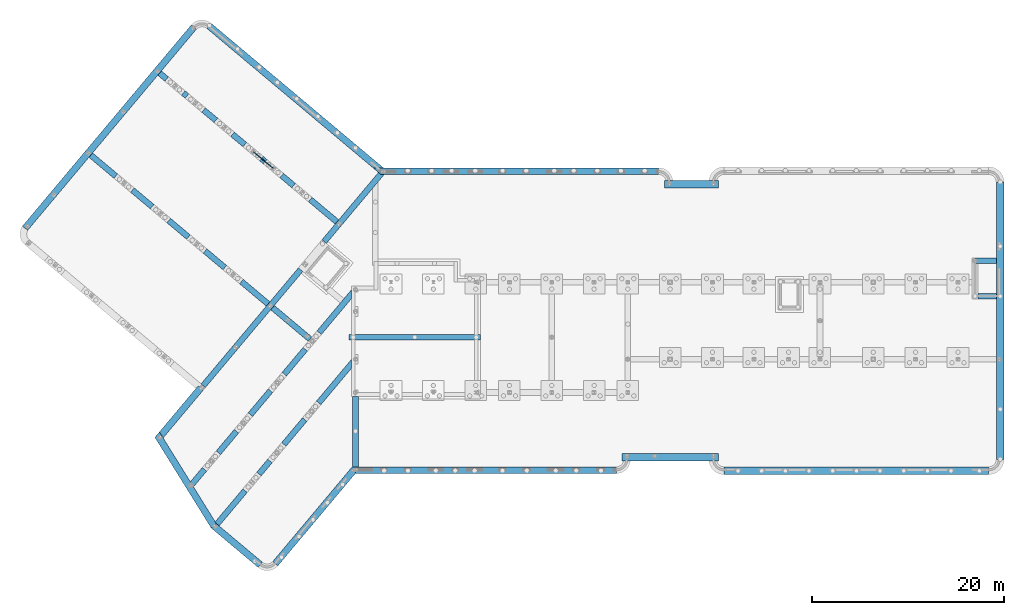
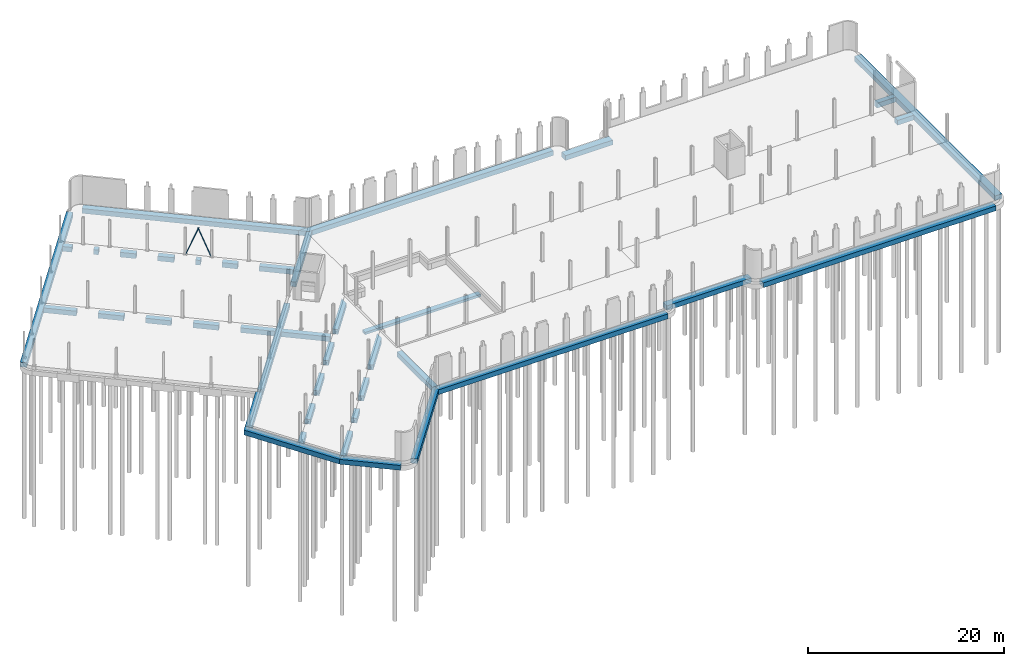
# One storey, part 18 of 26: 24 beams.
"""IFC2X3 building model written with IfcOpenShell, lengths in millimetres."""

from ifc_helpers import new_model, entity, si_unit, converted_unit, derived_unit, direction, frame, frame_2d, origin, origin_2d_with_axis, place, context, subcontext, project, spatial, polyline, circle_curve, parameter, trimmed, segment, composite_curve, rectangle, outline, extrude, clip, halfspace, bounded_halfspace, source, transform, mapped, material, type_object, type_shapes, element, save


model = new_model("IFC2X3")

# Units and contexts
model_context = context("Model", 3, precision=0.01, world=origin(), true_north=direction((6.123031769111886e-17, 1.0)))
body_context = subcontext(model_context, "Body", "Model", "MODEL_VIEW")
ifc_project = project(units=[si_unit("LENGTHUNIT", "METRE", prefix="MILLI"), si_unit("AREAUNIT", "SQUARE_METRE"), si_unit("VOLUMEUNIT", "CUBIC_METRE"), derived_unit("MASSDENSITYUNIT", [(si_unit("MASSUNIT", "GRAM", prefix="KILO"), 1), (si_unit("LENGTHUNIT", "METRE"), -3)]), si_unit("MASSUNIT", "GRAM", prefix="KILO"), converted_unit("PLANEANGLEUNIT", "DEGREE", entity("IfcPlaneAngleMeasure", 0.017453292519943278), si_unit("PLANEANGLEUNIT", "RADIAN"), dimensions=[0, 0, 0, 0, 0, 0, 0])], contexts=[model_context])

# Site, building, storey
site_placement = place(None, origin())
site = spatial("IfcSite", under=ifc_project, at=site_placement, Name="Default", CompositionType="ELEMENT")
building_placement = place(site_placement, origin())
building = spatial("IfcBuilding", under=site, at=building_placement, Name="AT constructie", CompositionType="ELEMENT")
storey_placement = place(building_placement, origin())
storey = spatial("IfcBuildingStorey", under=building, at=storey_placement, Name="00 begane grond", CompositionType="ELEMENT", Elevation=-1.0828671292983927e-12)

# Beams
ifc_material_1 = material(Name="h2_staal_S355")
beam_type_1 = type_object("IfcBeamType", Name="balk_gen_K100x50x4", PredefinedType="NOTDEFINED")
beam_1_placement = place(storey_placement, frame((31575.10835724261, 43964.21516234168, 3433.0), z_axis=(0.9601407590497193, 0.06828021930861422, -0.2710489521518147), x_axis=(-0.279516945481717, 0.23454256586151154, -0.9310532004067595)))
element("IfcBeam", 1, at=beam_1_placement, inside=storey, type_object=beam_type_1, material=ifc_material_1, Name="NLRS_28_SF_LIB_balk koker ongelijk_gen_AT:balk_gen_K100x50x4", ObjectType="NLRS_28_SF_LIB_balk koker ongelijk_gen_AT:balk_gen_K100x50x4", context=body_context, shape_type="SweptSolid", body=[
    extrude(outline(composite_curve([segment(trimmed(circle_curve(frame_2d((17.0, 42.0), x_axis=(1.0, 0.0)), 8.0), [parameter(359.99999999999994)], [parameter(89.99999999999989)], True, "PARAMETER"), True, "CONTINUOUS"), segment(polyline([(17.0, 50.0), (-17.0, 50.0)]), True, "CONTINUOUS"), segment(trimmed(circle_curve(frame_2d((-17.0, 42.0), x_axis=(1.0, 0.0)), 8.0), [parameter(90.00000000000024)], [parameter(180.00000000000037)], True, "PARAMETER"), True, "CONTINUOUS"), segment(polyline([(-25.0, 42.0), (-25.0, -42.0)]), True, "CONTINUOUS"), segment(trimmed(circle_curve(frame_2d((-17.0, -42.0), x_axis=(1.0, 0.0)), 8.0), [parameter(180.0)], [parameter(269.9999999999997)], True, "PARAMETER"), True, "CONTINUOUS"), segment(polyline([(-17.0, -50.0), (17.0, -50.0)]), True, "CONTINUOUS"), segment(trimmed(circle_curve(frame_2d((17.0, -42.0), x_axis=(1.0, 0.0)), 8.0), [parameter(270.00000000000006)], [parameter(2.544443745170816e-13)], True, "PARAMETER"), True, "CONTINUOUS"), segment(polyline([(25.0, -42.0), (25.0, 42.0)]), True, "CONTINUOUS")], self_intersect=False), holes=[composite_curve([segment(polyline([(-17.0, 46.0), (17.0, 46.0)]), True, "CONTINUOUS"), segment(trimmed(circle_curve(frame_2d((17.0, 42.0), x_axis=(1.0, 0.0)), 4.0), [parameter(0.0)], [parameter(90.00000000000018)], True, "PARAMETER"), False, "CONTINUOUS"), segment(polyline([(21.0, 42.0), (21.0, -42.0)]), True, "CONTINUOUS"), segment(trimmed(circle_curve(frame_2d((17.0, -42.0), x_axis=(1.0, 0.0)), 4.0), [parameter(269.9999999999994)], [parameter(359.9999999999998)], True, "PARAMETER"), False, "CONTINUOUS"), segment(polyline([(17.0, -46.0), (-17.0, -46.0)]), True, "CONTINUOUS"), segment(trimmed(circle_curve(frame_2d((-17.0, -42.0), x_axis=(1.0, 0.0)), 4.0), [parameter(180.00000000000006)], [parameter(269.9999999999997)], True, "PARAMETER"), False, "CONTINUOUS"), segment(polyline([(-21.0, -42.0), (-21.0, 42.0)]), True, "CONTINUOUS"), segment(trimmed(circle_curve(frame_2d((-17.0, 42.0), x_axis=(1.0, 0.0)), 4.0), [parameter(89.99999999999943)], [parameter(179.99999999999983)], True, "PARAMETER"), False, "CONTINUOUS")], self_intersect=False)]), frame((0.0, -33.473613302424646, 37.141852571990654), z_axis=(1.0, 0.0, 0.0), x_axis=(0.0, -0.7428370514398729, -0.669472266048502)), (0.0, 0.0, 1.0), 3769.4762135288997),
])
beam_2_placement = place(storey_placement, frame((31575.108357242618, 43964.215162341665, 3433.0), z_axis=(0.9593624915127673, 0.06964222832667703, 0.27344756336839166), x_axis=(0.2821765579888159, -0.2367742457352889, -0.9296850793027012)))
element("IfcBeam", 2, at=beam_2_placement, inside=storey, type_object=beam_type_1, material=ifc_material_1, Name="NLRS_28_SF_LIB_balk koker ongelijk_gen_AT:balk_gen_K100x50x4", ObjectType="NLRS_28_SF_LIB_balk koker ongelijk_gen_AT:balk_gen_K100x50x4", context=body_context, shape_type="SweptSolid", body=[
    extrude(outline(composite_curve([segment(polyline([(-42.0, -25.0), (42.0, -25.0)]), True, "CONTINUOUS"), segment(trimmed(circle_curve(frame_2d((42.0, -17.0), x_axis=(0.0, -1.0)), 8.0), [parameter(359.9999999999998)], [parameter(89.99999999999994)], True, "PARAMETER"), True, "CONTINUOUS"), segment(polyline([(50.0, -17.0), (50.0, 17.0)]), True, "CONTINUOUS"), segment(trimmed(circle_curve(frame_2d((42.0, 17.0), x_axis=(0.0, -1.0)), 8.0), [parameter(90.0000000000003)], [parameter(180.0)], True, "PARAMETER"), True, "CONTINUOUS"), segment(polyline([(42.0, 25.0), (-42.0, 25.0)]), True, "CONTINUOUS"), segment(trimmed(circle_curve(frame_2d((-42.0, 17.0), x_axis=(0.0, -1.0)), 8.0), [parameter(179.99999999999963)], [parameter(269.9999999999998)], True, "PARAMETER"), True, "CONTINUOUS"), segment(polyline([(-50.0, 17.0), (-50.0, -17.0)]), True, "CONTINUOUS"), segment(trimmed(circle_curve(frame_2d((-42.0, -17.0), x_axis=(0.0, -1.0)), 8.0), [parameter(270.0000000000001)], [parameter(5.088887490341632e-14)], True, "PARAMETER"), True, "CONTINUOUS")], self_intersect=False), holes=[composite_curve([segment(trimmed(circle_curve(frame_2d((-42.0, 17.0), x_axis=(0.0, -1.0)), 4.0), [parameter(180.00000000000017)], [parameter(270.00000000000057)], True, "PARAMETER"), False, "CONTINUOUS"), segment(polyline([(-42.0, 21.0), (42.0, 21.0)]), True, "CONTINUOUS"), segment(trimmed(circle_curve(frame_2d((42.0, 17.0), x_axis=(0.0, -1.0)), 4.0), [parameter(90.0000000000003)], [parameter(179.99999999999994)], True, "PARAMETER"), False, "CONTINUOUS"), segment(polyline([(46.0, 17.0), (46.0, -17.0)]), True, "CONTINUOUS"), segment(trimmed(circle_curve(frame_2d((42.0, -17.0), x_axis=(0.0, -1.0)), 4.0), [parameter(2.544443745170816e-13)], [parameter(90.00000000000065)], True, "PARAMETER"), False, "CONTINUOUS"), segment(polyline([(42.0, -21.0), (-42.0, -21.0)]), True, "CONTINUOUS"), segment(trimmed(circle_curve(frame_2d((-42.0, -17.0), x_axis=(0.0, -1.0)), 4.0), [parameter(269.99999999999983)], [parameter(0.0)], True, "PARAMETER"), False, "CONTINUOUS"), segment(polyline([(-46.0, -17.0), (-46.0, 17.0)]), True, "CONTINUOUS")], self_intersect=False)]), frame((0.0, 33.500768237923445, -37.1173615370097), z_axis=(1.0, 0.0, 0.0), x_axis=(0.0, 0.6700153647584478, -0.7423472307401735)), (0.0, 0.0, 1.0), 3746.4299229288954),
])
ifc_material_2 = material(Name="f2_beton ihwg_gen")
beam_type_2 = type_object("IfcBeamType", Name="fund vierkant_gen_800x600", PredefinedType="NOTDEFINED")
beam_3_placement = place(storey_placement, frame((108532.87463111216, 41671.043508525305, 0.0), z_axis=(0.0, 0.0, 1.0), x_axis=(0.0, -1.0, 0.0)))
element("IfcBeam", 3, at=beam_3_placement, inside=storey, type_object=beam_type_2, material=ifc_material_2, Name="NLRS_16_SF_LIB_balk fundering beton_gen_AT:fund vierkant_gen_800x600", ObjectType="NLRS_16_SF_LIB_balk fundering beton_gen_AT:fund vierkant_gen_800x600", context=body_context, shape_type="SweptSolid", body=[
    extrude(rectangle(XDim=600.0000000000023, YDim=799.9999999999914, at=frame_2d((-5.684341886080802e-14, 0.0), x_axis=(1.0, 0.0))), frame((0.0, -400.0, -750.0), z_axis=(1.0, 0.0, 0.0), x_axis=(0.0, 0.0, -1.0)), (0.0, 0.0, 1.0), 28799.99999999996),
])
beam_4_placement = place(storey_placement, frame((79446.8746311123, 11285.043508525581, 0.0)))
element("IfcBeam", 4, at=beam_4_placement, inside=storey, type_object=beam_type_2, material=ifc_material_2, Name="NLRS_16_SF_LIB_balk fundering beton_gen_AT:fund vierkant_gen_800x600", ObjectType="NLRS_16_SF_LIB_balk fundering beton_gen_AT:fund vierkant_gen_800x600", context=body_context, shape_type="SweptSolid", body=[
    extrude(rectangle(XDim=600.0000000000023, YDim=799.9999999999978, at=frame_2d((-5.684341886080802e-14, 1.0800249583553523e-12), x_axis=(1.0, 0.0))), frame((0.0, 400.0, -750.0), z_axis=(1.0, 0.0, 0.0), x_axis=(0.0, 0.0, -1.0)), (0.0, 0.0, 1.0), 27499.99999999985),
])
beam_5_placement = place(storey_placement, frame((73245.87462931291, 41857.04350852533, 0.0)))
element("IfcBeam", 5, at=beam_5_placement, inside=storey, type_object=beam_type_2, material=ifc_material_2, Name="NLRS_16_SF_LIB_balk fundering beton_gen_AT:fund vierkant_gen_800x600", ObjectType="NLRS_16_SF_LIB_balk fundering beton_gen_AT:fund vierkant_gen_800x600", context=body_context, shape_type="SweptSolid", body=[
    extrude(rectangle(XDim=600.0000000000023, YDim=800.0, at=frame_2d((-5.684341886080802e-14, -4.348521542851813e-12), x_axis=(1.0, 0.0))), frame((0.0, -400.0, -750.0), z_axis=(1.0, 0.0, 0.0), x_axis=(0.0, 0.0, -1.0)), (0.0, 0.0, 1.0), 5603.000001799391),
])
beam_6_placement = place(storey_placement, frame((78848.37463291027, 12685.043511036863, 0.0), z_axis=(0.0, 0.0, 1.0), x_axis=(-1.0, 0.0, 0.0)))
element("IfcBeam", 6, at=beam_6_placement, inside=storey, type_object=beam_type_2, material=ifc_material_2, Name="NLRS_16_SF_LIB_balk fundering beton_gen_AT:fund vierkant_gen_800x600", ObjectType="NLRS_16_SF_LIB_balk fundering beton_gen_AT:fund vierkant_gen_800x600", context=body_context, shape_type="SweptSolid", body=[
    extrude(rectangle(XDim=600.0000000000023, YDim=799.9999999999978, at=frame_2d((-5.684341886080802e-14, -1.0800249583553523e-12), x_axis=(1.0, 0.0))), frame((0.0, -400.0, -750.0), z_axis=(1.0, 0.0, 0.0), x_axis=(0.0, 0.0, -1.0)), (0.0, 0.0, 1.0), 10003.000006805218),
])
beam_type_3 = type_object("IfcBeamType", Name="fund vierkant_gen_700x600", PredefinedType="NOTDEFINED")
beam_7_placement = place(storey_placement, frame((44050.97011811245, 43157.043508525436, 0.0)))
element("IfcBeam", 7, at=beam_7_placement, inside=storey, type_object=beam_type_3, material=ifc_material_2, Name="NLRS_16_SF_LIB_balk fundering beton_gen_AT:fund vierkant_gen_700x600", ObjectType="NLRS_16_SF_LIB_balk fundering beton_gen_AT:fund vierkant_gen_700x600", context=body_context, shape_type="SweptSolid", body=[
    clip(extrude(rectangle(XDim=600.0000000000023, YDim=699.9999999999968, at=frame_2d((-5.684341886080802e-14, 0.0), x_axis=(1.0, 0.0))), frame((-1089.0066788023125, -350.0, -750.0), z_axis=(1.0, 0.0, 0.0), x_axis=(0.0, 0.0, -1.0)), (0.0, 0.0, 1.0), 29684.911191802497), halfspace(frame((-1102.1936685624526, 11.06519824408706, -1050.0), z_axis=(-0.6427876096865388, -0.7660444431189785, 0.0), x_axis=(0.7660444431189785, -0.6427876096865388, 0.0)), False)),
])
beam_8_placement = place(storey_placement, frame((26167.153197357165, 58163.34769077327, 0.0), z_axis=(0.0, 0.0, 1.0), x_axis=(0.7660444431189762, -0.6427876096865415, 0.0)))
element("IfcBeam", 8, at=beam_8_placement, inside=storey, type_object=beam_type_3, material=ifc_material_2, Name="NLRS_16_SF_LIB_balk fundering beton_gen_AT:fund vierkant_gen_700x600", ObjectType="NLRS_16_SF_LIB_balk fundering beton_gen_AT:fund vierkant_gen_700x600", context=body_context, shape_type="SweptSolid", body=[
    clip(extrude(rectangle(XDim=600.0000000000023, YDim=699.9999999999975, at=frame_2d((-5.684341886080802e-14, -3.296918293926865e-12), x_axis=(1.0, 0.0))), frame((0.0, -350.0, -750.0), z_axis=(1.0, 0.0, 0.0), x_axis=(0.0, 0.0, -1.0)), (0.0, 0.0, 1.0), 23345.664969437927), halfspace(frame((23483.377419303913, 115.55446589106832, -450.0), z_axis=(0.6427876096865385, -0.7660444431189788, 0.0), x_axis=(0.7660444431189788, 0.6427876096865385, 0.0)), False)),
])
beam_9_placement = place(storey_placement, frame((6530.268821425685, 37073.19845883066, 0.0), z_axis=(0.0, 0.0, 1.0), x_axis=(0.6427876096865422, 0.7660444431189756, 0.0)))
element("IfcBeam", 9, at=beam_9_placement, inside=storey, type_object=beam_type_3, material=ifc_material_2, Name="NLRS_16_SF_LIB_balk fundering beton_gen_AT:fund vierkant_gen_700x600", ObjectType="NLRS_16_SF_LIB_balk fundering beton_gen_AT:fund vierkant_gen_700x600", context=body_context, shape_type="SweptSolid", body=[
    clip(clip(extrude(rectangle(XDim=600.0000000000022, YDim=700.0000000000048, at=frame_2d((0.0, -3.979039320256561e-13), x_axis=(1.0, 0.0))), frame((0.0, -350.0, -750.0), z_axis=(1.0, 0.0, 0.0), x_axis=(0.0, 0.0, -1.0)), (0.0, 0.0, 1.0), 27336.82976236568), halfspace(frame((52.71757364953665, -700.0, 0.0), z_axis=(-0.9971761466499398, -0.07509815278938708, 0.0), x_axis=(0.07509815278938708, -0.9971761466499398, 0.0)), False)), halfspace(frame((27324.692694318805, -700.0, 0.0), z_axis=(0.9998497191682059, -0.01733606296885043, 0.0), x_axis=(-0.01733606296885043, -0.9998497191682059, 0.0)), False)),
])
beam_10_placement = place(storey_placement, frame((68246.87463111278, 11385.0435085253, 0.0), z_axis=(0.0, 0.0, 1.0), x_axis=(-1.0, 0.0, 0.0)))
element("IfcBeam", 10, at=beam_10_placement, inside=storey, type_object=beam_type_3, material=ifc_material_2, Name="NLRS_16_SF_LIB_balk fundering beton_gen_AT:fund vierkant_gen_700x600", ObjectType="NLRS_16_SF_LIB_balk fundering beton_gen_AT:fund vierkant_gen_700x600", context=body_context, shape_type="SweptSolid", body=[
    extrude(rectangle(XDim=600.0000000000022, YDim=699.9999999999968, at=frame_2d((0.0, 2.1600499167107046e-12), x_axis=(1.0, 0.0))), frame((0.0, -350.0, -750.0), z_axis=(1.0, 0.0, 0.0), x_axis=(0.0, 0.0, -1.0)), (0.0, 0.0, 1.0), 27100.000000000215),
])
beam_11_placement = place(storey_placement, frame((41146.874631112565, 11397.3123166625, 0.0), z_axis=(0.0, 0.0, 1.0), x_axis=(-0.6427876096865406, -0.7660444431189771, 0.0)))
element("IfcBeam", 11, at=beam_11_placement, inside=storey, type_object=beam_type_3, material=ifc_material_2, Name="NLRS_16_SF_LIB_balk fundering beton_gen_AT:fund vierkant_gen_700x600", ObjectType="NLRS_16_SF_LIB_balk fundering beton_gen_AT:fund vierkant_gen_700x600", context=body_context, shape_type="SweptSolid", body=[
    clip(clip(clip(clip(extrude(rectangle(XDim=600.0000000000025, YDim=700.0000000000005, at=frame_2d((-2.842170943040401e-14, 0.0), x_axis=(1.0, 0.0))), frame((-526.8326578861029, -350.0, -750.0), z_axis=(1.0, 0.0, 0.0), x_axis=(0.0, 0.0, -1.0)), (0.0, 0.0, 1.0), 13061.242637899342), halfspace(frame((12522.272911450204, -700.0, 0.0), z_axis=(0.9998497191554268, -0.017336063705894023, 0.0), x_axis=(0.017336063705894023, 0.9998497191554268, 0.0)), False)), halfspace(frame((-258.7171027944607, -217.08942553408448, -750.0), z_axis=(-0.6427876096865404, 0.7660444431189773, 0.0), x_axis=(0.0, 0.0, 1.0)), False)), bounded_halfspace(frame((-526.8326578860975, -442.0650889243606, -750.0), z_axis=(-0.7660444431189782, -0.6427876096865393, 0.0), x_axis=(0.0, 0.0, 1.0)), False, frame((-526.8326578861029, -350.0, -750.0), z_axis=(1.0, 0.0, 0.0), x_axis=(0.0, 0.0, -1.0)), polyline([(300.0, -321.87842186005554), (-300.0, -321.87842186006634), (-300.0, -92.06508892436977), (300.0, -92.06508892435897), (300.0, -321.87842186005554)]))), bounded_halfspace(frame((-333.99637498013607, -671.8784218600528, -450.0), z_axis=(-0.6427876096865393, 0.7660444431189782, 0.0), x_axis=(-0.7660444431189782, -0.6427876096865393, 0.0)), False, frame((-526.8326578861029, -350.0, -750.0), z_axis=(1.0, 0.0, 0.0), x_axis=(0.0, 0.0, -1.0)), polyline([(-300.0, -321.87842186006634), (300.0, -321.8784218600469), (300.0, -350.0), (-300.0, -350.0), (-300.0, -321.87842186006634)]))),
])
beam_12_placement = place(storey_placement, frame((31024.846596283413, 1646.4373243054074, 0.0), z_axis=(0.0, 0.0, 1.0), x_axis=(-0.7660444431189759, 0.6427876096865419, 0.0)))
element("IfcBeam", 12, at=beam_12_placement, inside=storey, type_object=beam_type_3, material=ifc_material_2, Name="NLRS_16_SF_LIB_balk fundering beton_gen_AT:fund vierkant_gen_700x600", ObjectType="NLRS_16_SF_LIB_balk fundering beton_gen_AT:fund vierkant_gen_700x600", context=body_context, shape_type="SweptSolid", body=[
    clip(extrude(rectangle(XDim=600.0000000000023, YDim=699.9999999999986, at=frame_2d((-2.842170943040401e-14, 2.3305801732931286e-12), x_axis=(1.0, 0.0))), frame((0.0, -350.0, -750.0), z_axis=(1.0, 0.0, 0.0), x_axis=(0.0, 0.0, -1.0)), (0.0, 0.0, 1.0), 6345.480674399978), halfspace(frame((6233.7196169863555, -700.0, 0.0), z_axis=(0.9874931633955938, -0.1576618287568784, 0.0), x_axis=(-0.1576618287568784, -0.9874931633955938, 0.0)), False)),
])
beam_13_placement = place(storey_placement, frame((26163.926386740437, 5725.233679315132, 0.0), z_axis=(0.0, 0.0, 1.0), x_axis=(-0.5278097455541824, 0.849362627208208, 0.0)))
element("IfcBeam", 13, at=beam_13_placement, inside=storey, type_object=beam_type_3, material=ifc_material_2, Name="NLRS_16_SF_LIB_balk fundering beton_gen_AT:fund vierkant_gen_700x600", ObjectType="NLRS_16_SF_LIB_balk fundering beton_gen_AT:fund vierkant_gen_700x600", context=body_context, shape_type="SweptSolid", body=[
    clip(clip(extrude(rectangle(XDim=600.0000000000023, YDim=699.9999999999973, at=frame_2d((-5.684341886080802e-14, 2.5579538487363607e-13), x_axis=(1.0, 0.0))), frame((0.0, -350.0, -750.0), z_axis=(1.0, 0.0, 0.0), x_axis=(0.0, 0.0, -1.0)), (0.0, 0.0, 1.0), 11321.127856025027), halfspace(frame((11060.918822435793, 94.11942102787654, -450.0), z_axis=(0.9502854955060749, 0.3113799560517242, 0.0), x_axis=(0.3113799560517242, -0.9502854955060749, 0.0)), False)), halfspace(frame((111.76105741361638, -700.0, 0.0), z_axis=(-0.9874931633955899, -0.15766182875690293, 0.0), x_axis=(0.15766182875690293, -0.9874931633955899, 0.0)), False)),
])
beam_14_placement = place(storey_placement, frame((20309.587931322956, 15146.159179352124, 0.0), z_axis=(0.0, 0.0, 1.0), x_axis=(0.6427876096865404, 0.7660444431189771, 0.0)))
element("IfcBeam", 14, at=beam_14_placement, inside=storey, type_object=beam_type_3, material=ifc_material_2, Name="NLRS_16_SF_LIB_balk fundering beton_gen_AT:fund vierkant_gen_700x600", ObjectType="NLRS_16_SF_LIB_balk fundering beton_gen_AT:fund vierkant_gen_700x600", context=body_context, shape_type="SweptSolid", body=[
    clip(extrude(rectangle(XDim=600.0000000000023, YDim=700.0000000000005, at=frame_2d((-5.684341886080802e-14, 0.0), x_axis=(1.0, 0.0))), frame((507.2518027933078, -350.0, -750.0), z_axis=(1.0, 0.0, 0.0), x_axis=(0.0, 0.0, -1.0)), (0.0, 0.0, 1.0), 6488.9967909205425), halfspace(frame((-2716.7268000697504, -10539.105069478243, -1050.0), z_axis=(-0.9502854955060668, 0.3113799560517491, 0.0), x_axis=(0.3113799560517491, 0.9502854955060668, 0.0)), False)),
])
beam_type_4 = type_object("IfcBeamType", Name="fund vierkant_gen_600x600", PredefinedType="NOTDEFINED")
beam_15_placement = place(storey_placement, frame((25338.083282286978, 20516.59704846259, 0.0), z_axis=(0.0, 0.0, 1.0), x_axis=(0.6427876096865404, 0.7660444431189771, 0.0)))
element("IfcBeam", 15, at=beam_15_placement, inside=storey, type_object=beam_type_4, material=ifc_material_2, Name="NLRS_16_SF_LIB_balk fundering beton_gen_AT:fund vierkant_gen_600x600", ObjectType="NLRS_16_SF_LIB_balk fundering beton_gen_AT:fund vierkant_gen_600x600", context=body_context, shape_type="SweptSolid", body=[
    extrude(rectangle(XDim=600.0000000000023, YDim=600.0000000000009, at=frame_2d((-5.684341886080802e-14, 1.6484591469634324e-12), x_axis=(1.0, 0.0))), frame((0.0, 0.0, -750.0), z_axis=(1.0, 0.0, 0.0), x_axis=(0.0, 0.0, -1.0)), (0.0, 0.0, 1.0), 15737.000009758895),
])
beam_16_placement = place(storey_placement, frame((41146.87463111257, 12085.043508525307, 0.0), z_axis=(0.0, 0.0, 1.0), x_axis=(0.0, 1.0, 0.0)))
element("IfcBeam", 16, at=beam_16_placement, inside=storey, type_object=beam_type_4, material=ifc_material_2, Name="NLRS_16_SF_LIB_balk fundering beton_gen_AT:fund vierkant_gen_600x600", ObjectType="NLRS_16_SF_LIB_balk fundering beton_gen_AT:fund vierkant_gen_600x600", context=body_context, shape_type="SweptSolid", body=[
    extrude(rectangle(XDim=600.0000000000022, YDim=599.9999999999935, at=origin_2d_with_axis()), frame((0.0, 0.0, -750.0), z_axis=(1.0, 0.0, 0.0), x_axis=(0.0, 0.0, -1.0)), (0.0, 0.0, 1.0), 7311.0000000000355),
])
beam_17_placement = place(storey_placement, frame((40471.874631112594, 25546.043508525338, 0.0)))
element("IfcBeam", 17, at=beam_17_placement, inside=storey, type_object=beam_type_4, material=ifc_material_2, Name="NLRS_16_SF_LIB_balk fundering beton_gen_AT:fund vierkant_gen_600x600", ObjectType="NLRS_16_SF_LIB_balk fundering beton_gen_AT:fund vierkant_gen_600x600", context=body_context, shape_type="SweptSolid", body=[
    extrude(rectangle(XDim=300.00000000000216, YDim=600.0000000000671, at=frame_2d((0.0, -5.4143356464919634e-11), x_axis=(1.0, 0.0))), frame((0.0, 0.0, -1604.0), z_axis=(1.0, 0.0, 0.0), x_axis=(0.0, 0.0, -1.0)), (0.0, 0.0, 1.0), 13674.99999999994),
])
beam_18_placement = place(storey_placement, frame((37902.652695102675, 35490.46778558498, 0.0), z_axis=(0.0, 0.0, 1.0), x_axis=(0.6427876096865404, 0.7660444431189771, 0.0)))
element("IfcBeam", 18, at=beam_18_placement, inside=storey, type_object=beam_type_4, material=ifc_material_2, Name="NLRS_16_SF_LIB_balk fundering beton_gen_AT:fund vierkant_gen_600x600", ObjectType="NLRS_16_SF_LIB_balk fundering beton_gen_AT:fund vierkant_gen_600x600", context=body_context, shape_type="SweptSolid", body=[
    clip(clip(extrude(rectangle(XDim=600.0000000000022, YDim=600.0000000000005, at=origin_2d_with_axis()), frame((0.0, 0.0, -750.0), z_axis=(1.0, 0.0, 0.0), x_axis=(0.0, 0.0, -1.0)), (0.0, 0.0, 1.0), 9340.299989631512), bounded_halfspace(frame((9404.32334594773, -369.5682896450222, -1050.0), z_axis=(0.7660444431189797, 0.6427876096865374, 0.0), x_axis=(0.6427876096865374, -0.7660444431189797, 0.0)), False, frame((0.0, 0.0, -750.0), z_axis=(1.0, 0.0, 0.0), x_axis=(0.0, 0.0, -1.0)), polyline([(300.0, -36.683676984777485), (-300.0, -36.683676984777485), (-300.0, -293.2682247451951), (300.0, -293.2682247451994), (300.0, -36.683676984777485)]))), bounded_halfspace(frame((9124.99999023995, 1069.5373943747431, -1050.0), z_axis=(1.0, 0.0, 0.0), x_axis=(0.0, -1.0, 0.0)), False, frame((0.0, 0.0, -750.0), z_axis=(1.0, 0.0, 0.0), x_axis=(0.0, 0.0, -1.0)), polyline([(-300.0, -36.683676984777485), (300.0, -36.68367698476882), (300.0, 300.0), (-300.0, 300.0), (-300.0, -36.683676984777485)]))),
])
beam_19_placement = place(storey_placement, frame((105525.87463489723, 33501.04350852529, 0.0)))
element("IfcBeam", 19, at=beam_19_placement, inside=storey, type_object=beam_type_4, material=ifc_material_2, Name="NLRS_16_SF_LIB_balk fundering beton_gen_AT:fund vierkant_gen_600x600", ObjectType="NLRS_16_SF_LIB_balk fundering beton_gen_AT:fund vierkant_gen_600x600", context=body_context, shape_type="SweptSolid", body=[
    extrude(rectangle(XDim=600.0000000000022, YDim=599.9999999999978, at=frame_2d((0.0, 2.1600499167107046e-12), x_axis=(1.0, 0.0))), frame((12.70000060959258, 0.0, -750.0), z_axis=(1.0, 0.0, 0.0), x_axis=(0.0, 0.0, -1.0)), (0.0, 0.0, 1.0), 2194.299995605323),
])
beam_20_placement = place(storey_placement, frame((105525.87463489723, 29814.0435085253, 0.0)))
element("IfcBeam", 20, at=beam_20_placement, inside=storey, type_object=beam_type_4, material=ifc_material_2, Name="NLRS_16_SF_LIB_balk fundering beton_gen_AT:fund vierkant_gen_600x600", ObjectType="NLRS_16_SF_LIB_balk fundering beton_gen_AT:fund vierkant_gen_600x600", context=body_context, shape_type="SweptSolid", body=[
    extrude(rectangle(XDim=600.0000000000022, YDim=599.9999999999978, at=frame_2d((0.0, 2.1600499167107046e-12), x_axis=(1.0, 0.0))), frame((300.0, 0.0, -750.0), z_axis=(1.0, 0.0, 0.0), x_axis=(0.0, 0.0, -1.0)), (0.0, 0.0, 1.0), 1906.9999962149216),
])
beam_type_5 = type_object("IfcBeamType", Name="fund vierkant_gen_600x600", PredefinedType="BEAM", material=ifc_material_2)
shared_shape_1 = source(origin(), body_context, "Body", "SweptSolid", [
    extrude(rectangle(XDim=600.0000000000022, YDim=599.9999999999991, at=frame_2d((0.0, 4.689582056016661e-12), x_axis=(1.0, 0.0))), frame((13650.147630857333, 44469.33293000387, -750.0), z_axis=(0.7660444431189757, -0.6427876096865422, 0.0), x_axis=(0.0, 0.0, -1.0)), (0.0, 0.0, 1.0), 3391.0000000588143),
    extrude(rectangle(XDim=600.0000000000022, YDim=599.999999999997, at=frame_2d((0.0, 3.296918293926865e-12), x_axis=(1.0, 0.0))), frame((29301.2016482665, 31336.539276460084, -750.0), z_axis=(0.7660444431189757, -0.6427876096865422, 0.0), x_axis=(0.0, 0.0, -1.0)), (0.0, 0.0, 1.0), 3618.999999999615),
    extrude(rectangle(XDim=600.0000000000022, YDim=599.9999999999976, at=origin_2d_with_axis()), frame((32533.143153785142, 28624.61835119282, -750.0), z_axis=(0.766044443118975, -0.6427876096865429, 0.0), x_axis=(0.0, 0.0, -1.0)), (0.0, 0.0, 1.0), 5085.999999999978),
    extrude(rectangle(XDim=600.0000000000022, YDim=599.9999999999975, at=frame_2d((0.0, -5.4001247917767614e-12), x_axis=(1.0, 0.0))), frame((17971.40433453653, 40843.368023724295, -750.0), z_axis=(0.7660444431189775, -0.64278760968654, 0.0), x_axis=(0.0, 0.0, -1.0)), (0.0, 0.0, 1.0), 2680.000000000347),
    extrude(rectangle(XDim=600.0000000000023, YDim=599.9999999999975, at=frame_2d((0.0, 6.110667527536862e-12), x_axis=(1.0, 0.0))), frame((21748.00343911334, 37674.42510796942, -750.0), z_axis=(0.7660444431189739, -0.6427876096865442, 0.0), x_axis=(0.0, 0.0, -1.0)), (0.0, 0.0, 1.0), 2680.000000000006),
    extrude(rectangle(XDim=600.0000000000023, YDim=599.999999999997, at=frame_2d((0.0, 1.6768808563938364e-12), x_axis=(1.0, 0.0))), frame((25524.6025436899, 34505.48219221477, -750.0), z_axis=(0.7660444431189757, -0.6427876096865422, 0.0), x_axis=(0.0, 0.0, -1.0)), (0.0, 0.0, 1.0), 2680.0000000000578),
])
type_shapes(beam_type_5, [shared_shape_1])
beam_21_placement = place(storey_placement, origin())
element("IfcBeam", 21, at=beam_21_placement, inside=storey, type_object=beam_type_5, material=ifc_material_2, Name="NLRS_16_SF_LIB_balk fundering beton_gen_AT:fund vierkant_gen_600x600", ObjectType="NLRS_16_SF_LIB_balk fundering beton_gen_AT:fund vierkant_gen_600x600", context=body_context, shape_type="MappedRepresentation", body=[
    mapped(shared_shape_1, transform((0.0, 0.0, 0.0), scale=1.0)),
])
beam_type_6 = type_object("IfcBeamType", Name="fund vierkant_gen_600x600", PredefinedType="BEAM", material=ifc_material_2)
shared_shape_2 = source(origin(), body_context, "Body", "SweptSolid", [
    extrude(rectangle(XDim=600.0000000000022, YDim=600.0000000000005, at=frame_2d((0.0, 3.296918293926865e-12), x_axis=(1.0, 0.0))), frame((20801.159788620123, 52991.5773597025, -750.0), z_axis=(0.7660444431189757, -0.6427876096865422, 0.0), x_axis=(0.0, 0.0, -1.0)), (0.0, 0.0, 1.0), 961.0000000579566),
    extrude(rectangle(XDim=600.0000000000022, YDim=599.9999999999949, at=frame_2d((0.0, 1.3926637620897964e-12), x_axis=(1.0, 0.0))), frame((23260.928495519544, 50927.5863449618, -750.0), z_axis=(0.7660444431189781, -0.6427876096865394, 0.0), x_axis=(0.0, 0.0, -1.0)), (0.0, 0.0, 1.0), 504.9999999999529),
    extrude(rectangle(XDim=600.0000000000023, YDim=599.9999999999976, at=origin_2d_with_axis()), frame((25371.380936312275, 49156.7064802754, -750.0), z_axis=(0.7660444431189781, -0.6427876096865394, 0.0), x_axis=(0.0, 0.0, -1.0)), (0.0, 0.0, 1.0), 1670.00000000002),
    extrude(rectangle(XDim=600.0000000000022, YDim=599.9999999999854, at=frame_2d((0.0, 4.718003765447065e-12), x_axis=(1.0, 0.0))), frame((28374.275153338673, 46636.97905030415, -750.0), z_axis=(0.7660444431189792, -0.6427876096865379, 0.0), x_axis=(0.0, 0.0, -1.0)), (0.0, 0.0, 1.0), 1679.9984253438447),
    extrude(rectangle(XDim=600.0000000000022, YDim=599.9999999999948, at=frame_2d((0.0, 4.718003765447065e-12), x_axis=(1.0, 0.0))), frame((31384.828608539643, 44110.82475640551, -750.0), z_axis=(0.7660444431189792, -0.6427876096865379, 0.0), x_axis=(0.0, 0.0, -1.0)), (0.0, 0.0, 1.0), 495.01902650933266),
    extrude(rectangle(XDim=600.0000000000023, YDim=599.9999999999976, at=origin_2d_with_axis()), frame((33487.635180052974, 42346.36053781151, -750.0), z_axis=(0.7660444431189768, -0.6427876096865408, 0.0), x_axis=(0.0, 0.0, -1.0)), (0.0, 0.0, 1.0), 1619.9825481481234),
    extrude(rectangle(XDim=600.0000000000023, YDim=599.9999999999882, at=frame_2d((0.0, -9.43600753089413e-12), x_axis=(1.0, 0.0))), frame((36452.21380602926, 39858.783706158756, -750.0), z_axis=(0.7660444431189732, -0.642787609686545, 0.0), x_axis=(0.0, 0.0, -1.0)), (0.0, 0.0, 1.0), 3618.999999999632),
])
type_shapes(beam_type_6, [shared_shape_2])
beam_22_placement = place(storey_placement, origin())
element("IfcBeam", 22, at=beam_22_placement, inside=storey, type_object=beam_type_6, material=ifc_material_2, Name="NLRS_16_SF_LIB_balk fundering beton_gen_AT:fund vierkant_gen_600x600", ObjectType="NLRS_16_SF_LIB_balk fundering beton_gen_AT:fund vierkant_gen_600x600", context=body_context, shape_type="MappedRepresentation", body=[
    mapped(shared_shape_2, transform((0.0, 0.0, 0.0), scale=1.0)),
])
beam_type_7 = type_object("IfcBeamType", Name="fund vierkant_gen_600x600", PredefinedType="BEAM", material=ifc_material_2)
shared_shape_3 = source(origin(), body_context, "Body", "SweptSolid", [
    clip(extrude(rectangle(XDim=600.0000000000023, YDim=600.000000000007, at=frame_2d((0.0, -2.3590018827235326e-12), x_axis=(1.0, 0.0))), frame((24100.192020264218, 10195.490010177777, -750.0), z_axis=(0.6427876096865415, 0.7660444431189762, 0.0), x_axis=(0.0, 0.0, 1.0)), (0.0, 0.0, 1.0), 2128.1278588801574), halfspace(frame((26636.732479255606, 6290.619554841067, -1050.0), z_axis=(-0.849362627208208, -0.5278097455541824, 0.0), x_axis=(-0.5278097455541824, 0.849362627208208, 0.0)), False)),
    clip(extrude(rectangle(XDim=600.0000000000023, YDim=599.9999999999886, at=frame_2d((0.0, 7.531752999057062e-12), x_axis=(1.0, 0.0))), frame((37382.19458532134, 26024.364283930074, -750.0), z_axis=(0.6427876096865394, 0.7660444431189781, 0.0), x_axis=(0.0, 0.0, 1.0)), (0.0, 0.0, 1.0), 5553.145899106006), halfspace(frame((40721.87463111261, 30049.471057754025, -1154.0), z_axis=(1.0, 0.0, 0.0), x_axis=(0.0, -1.0, 0.0)), False)),
    extrude(rectangle(XDim=600.0000000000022, YDim=599.9999999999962, at=frame_2d((0.0, 6.821210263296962e-13), x_axis=(1.0, 0.0))), frame((26914.398361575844, 13549.330527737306, -750.0), z_axis=(0.64278760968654, 0.7660444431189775, 0.0), x_axis=(0.0, 0.0, 1.0)), (0.0, 0.0, 1.0), 2914.999999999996),
    extrude(rectangle(XDim=600.0000000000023, YDim=599.9999999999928, at=frame_2d((0.0, 4.718003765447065e-12), x_axis=(1.0, 0.0))), frame((30234.39636560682, 17505.950076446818, -750.0), z_axis=(0.64278760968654, 0.7660444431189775, 0.0), x_axis=(0.0, 0.0, 1.0)), (0.0, 0.0, 1.0), 3245.000000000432),
    extrude(rectangle(XDim=600.0000000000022, YDim=600.0000000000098, at=frame_2d((0.0, 3.069544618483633e-12), x_axis=(1.0, 0.0))), frame((33766.514280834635, 21715.364291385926, -750.0), z_axis=(0.6427876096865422, 0.7660444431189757, 0.0), x_axis=(0.0, 0.0, 1.0)), (0.0, 0.0, 1.0), 3374.9999999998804),
])
type_shapes(beam_type_7, [shared_shape_3])
beam_23_placement = place(storey_placement, origin())
element("IfcBeam", 23, at=beam_23_placement, inside=storey, type_object=beam_type_7, material=ifc_material_2, Name="NLRS_16_SF_LIB_balk fundering beton_gen_AT:fund vierkant_gen_600x600", ObjectType="NLRS_16_SF_LIB_balk fundering beton_gen_AT:fund vierkant_gen_600x600", context=body_context, shape_type="MappedRepresentation", body=[
    mapped(shared_shape_3, transform((0.0, 0.0, 0.0), scale=1.0)),
])
beam_type_8 = type_object("IfcBeamType", Name="fund vierkant_gen_600x600", PredefinedType="BEAM", material=ifc_material_2)
shared_shape_4 = source(origin(), body_context, "Body", "SweptSolid", [
    clip(extrude(rectangle(XDim=600.0000000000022, YDim=599.9999999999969, at=frame_2d((0.0, 6.821210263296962e-13), x_axis=(1.0, 0.0))), frame((26763.763788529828, 6135.695439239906, -750.0), z_axis=(0.64278760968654, 0.7660444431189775, 0.0), x_axis=(0.0, 0.0, 1.0)), (0.0, 0.0, 1.0), 4540.060691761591), halfspace(frame((26636.732479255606, 6290.619554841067, -1050.0), z_axis=(-0.849362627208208, -0.5278097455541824, 0.0), x_axis=(-0.5278097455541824, 0.849362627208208, 0.0)), False)),
    extrude(rectangle(XDim=600.0000000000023, YDim=599.9999999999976, at=frame_2d((0.0, 3.069544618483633e-12), x_axis=(1.0, 0.0))), frame((31128.330670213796, 11337.183700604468, -750.0), z_axis=(0.6427876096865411, 0.7660444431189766, 0.0), x_axis=(0.0, 0.0, 1.0)), (0.0, 0.0, 1.0), 1770.9393082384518),
    clip(extrude(rectangle(XDim=600.0000000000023, YDim=600.0000000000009, at=frame_2d((0.0, 3.0411229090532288e-12), x_axis=(1.0, 0.0))), frame((37328.62094133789, 18726.40190634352, -750.0), z_axis=(0.6427876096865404, 0.7660444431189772, 0.0), x_axis=(0.0, 0.0, 1.0)), (0.0, 0.0, 1.0), 5636.49169354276), halfspace(frame((40721.87463111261, 30049.471057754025, -1154.0), z_axis=(1.0, 0.0, 0.0), x_axis=(0.0, -1.0, 0.0)), False)),
    extrude(rectangle(XDim=600.0000000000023, YDim=599.9999999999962, at=frame_2d((0.0, 7.759126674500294e-12), x_axis=(1.0, 0.0))), frame((33712.94063685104, 14417.401913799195, -750.0), z_axis=(0.6427876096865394, 0.7660444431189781, 0.0), x_axis=(0.0, 0.0, 1.0)), (0.0, 0.0, 1.0), 3375.000000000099),
])
type_shapes(beam_type_8, [shared_shape_4])
beam_24_placement = place(storey_placement, origin())
element("IfcBeam", 24, at=beam_24_placement, inside=storey, type_object=beam_type_8, material=ifc_material_2, Name="NLRS_16_SF_LIB_balk fundering beton_gen_AT:fund vierkant_gen_600x600", ObjectType="NLRS_16_SF_LIB_balk fundering beton_gen_AT:fund vierkant_gen_600x600", context=body_context, shape_type="MappedRepresentation", body=[
    mapped(shared_shape_4, transform((0.0, 0.0, 0.0), scale=1.0)),
])

save(model, "model.ifc")
